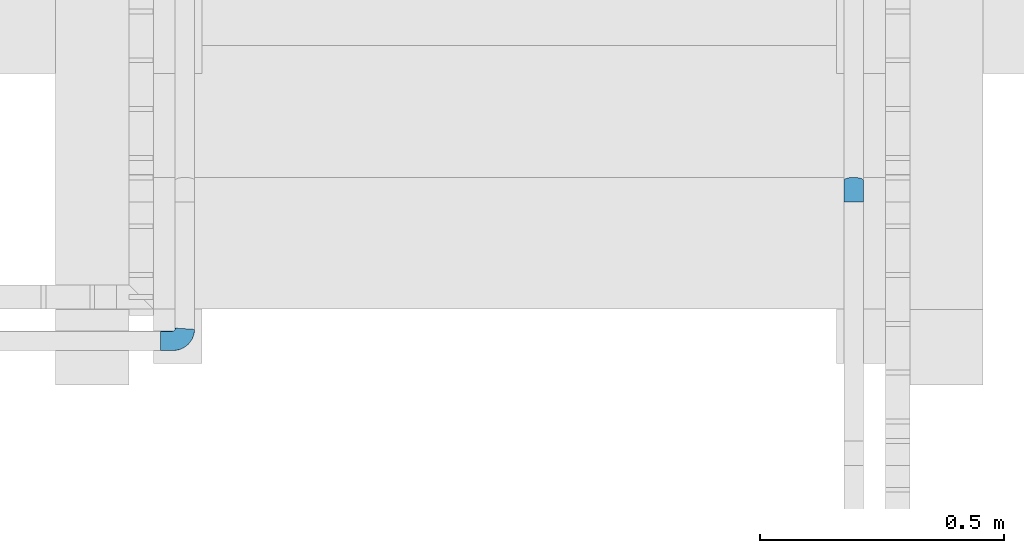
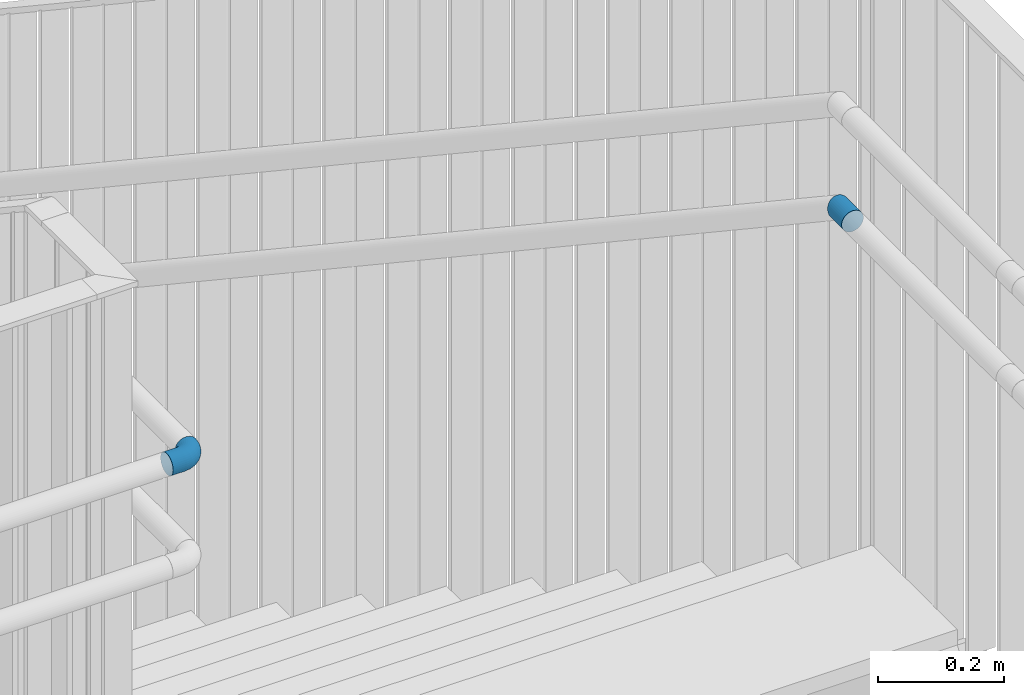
# One storey, part 86 of 418: 2 members, 2 elements without a shape of their own.
"""IFC2X3 building model written with IfcOpenShell, lengths in millimetres."""

from ifc_helpers import new_model, entity, si_unit, converted_unit, derived_unit, money_unit, direction, frame, origin_with_axes, place, context, subcontext, project, spatial, faceted_brep, material, type_object, element, aggregate, save


model = new_model("IFC2X3")

# Units and contexts
model_context = context("Model", 3, precision=0.01, world=origin_with_axes(), true_north=direction((0.0, 1.0)))
body_context = subcontext(model_context, "Body", "Model", "MODEL_VIEW")
ifc_project = project(units=[si_unit("LENGTHUNIT", "METRE", prefix="MILLI"), si_unit("AREAUNIT", "SQUARE_METRE"), si_unit("VOLUMEUNIT", "CUBIC_METRE"), converted_unit("PLANEANGLEUNIT", "DEGREE", entity("IfcPlaneAngleMeasure", 0.0174532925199), si_unit("PLANEANGLEUNIT", "RADIAN"), dimensions=[0, 0, 0, 0, 0, 0, 0]), si_unit("SOLIDANGLEUNIT", "STERADIAN"), money_unit("EUR"), converted_unit("TIMEUNIT", "Year", entity("IfcTimeMeasure", 31556926.0), si_unit("TIMEUNIT", "SECOND"), dimensions=[0, 0, 1, 0, 0, 0, 0]), si_unit("MASSUNIT", "GRAM", prefix="KILO"), si_unit("THERMODYNAMICTEMPERATUREUNIT", "DEGREE_CELSIUS"), si_unit("LUMINOUSINTENSITYUNIT", "LUMEN"), si_unit("ENERGYUNIT", "JOULE", prefix="MEGA"), derived_unit("THERMALCONDUCTANCEUNIT", [(si_unit("POWERUNIT", "WATT"), 1), (si_unit("LENGTHUNIT", "METRE"), -1), (si_unit("THERMODYNAMICTEMPERATUREUNIT", "KELVIN"), -1)]), derived_unit("SPECIFICHEATCAPACITYUNIT", [(si_unit("ENERGYUNIT", "JOULE"), 1), (si_unit("MASSUNIT", "GRAM", prefix="KILO"), -1), (si_unit("THERMODYNAMICTEMPERATUREUNIT", "KELVIN"), -1)]), derived_unit("MASSDENSITYUNIT", [(si_unit("MASSUNIT", "GRAM", prefix="KILO"), 1), (si_unit("VOLUMEUNIT", "CUBIC_METRE"), -1)])], contexts=[model_context])

# Site, building, storey
site_placement = place(None, origin_with_axes())
site = spatial("IfcSite", under=ifc_project, at=site_placement, Name="Paldiski mnt 245/1, Tallinn, Harjumaa", CompositionType="COMPLEX")
building_placement = place(site_placement, origin_with_axes())
building = spatial("IfcBuilding", under=site, at=building_placement, Name="RKAS Hoone üldnimetus (kasutust iseloomustav) -> IFC Project Manager -> SOLIBRI", CompositionType="ELEMENT")
storey_placement = place(building_placement, origin_with_axes())
storey = spatial("IfcBuildingStorey", under=building, at=storey_placement, Name="Esimene korrus", CompositionType="ELEMENT", Elevation=0.0)

# Railing, member
railing_type = type_object("IfcRailingType", Name="Railing Type", PredefinedType="NOTDEFINED")
railing_1_placement = place(storey_placement, frame((-15438.0000282, 781.88210964, -670.434782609), z_axis=(0.0, 0.0, 1.0), x_axis=(-0.773149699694, -0.634223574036, 0.0)))
railing_1 = element("IfcRailing", 1, at=railing_1_placement, inside=storey, type_object=railing_type, Name="Trepipiire", PredefinedType="NOTDEFINED")
ifc_material = material(Name="ET-07_Teras - Roostevaba")
member_type = type_object("IfcMemberType", Name="IfcMember", PredefinedType="USERDEFINED")
member_1_placement = place(railing_1_placement, frame((0.0, 0.0, 0.0), z_axis=(0.0, 0.0, 1.0), x_axis=(-0.773149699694, 0.634223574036, 0.0)))
member_1 = element("IfcMember", 2, at=member_1_placement, type_object=member_type, material=ifc_material, ObjectType="Rail", context=body_context, shape_type="Brep", body=[
    faceted_brep([(14.9999999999, -5214.69615506, 4833.90774616), (14.9999999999, -5215.0, 4830.43478261), (41.3108692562, -5215.0, 4830.43478261), (41.2909542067, -5214.69615506, 4833.90774616), (14.9999999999, -5214.69615506, 4826.96181906), (14.9999999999, -5213.79385242, 4837.27518548), (14.9999999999, -5212.32050808, 4840.43478261), (14.9999999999, -5210.32088886, 4843.2905348), (14.9999999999, -5207.85575219, 4845.75567147), (14.9999999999, -5205.0, 4847.75529068), (14.9999999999, -5201.84040287, 4849.22863502), (14.9999999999, -5198.47296355, 4850.13093767), (14.9999999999, -5195.0, 4850.43478261), (14.9999999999, -5191.52703645, 4850.13093767), (14.9999999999, -5188.15959713, 4849.22863502), (14.9999999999, -5185.0, 4847.75529068), (14.9999999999, -5182.14424781, 4845.75567147), (14.9999999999, -5179.67911114, 4843.2905348), (14.9999999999, -5177.67949192, 4840.43478261), (14.9999999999, -5176.20614758, 4837.27518548), (14.9999999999, -5175.30384494, 4833.90774616), (14.9999999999, -5175.0, 4830.43478261), (14.9999999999, -5175.30384494, 4826.96181906), (14.9999999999, -5176.20614758, 4823.59437974), (14.9999999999, -5177.67949192, 4820.43478261), (14.9999999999, -5179.67911114, 4817.57903041), (14.9999999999, -5182.14424781, 4815.11389375), (14.9999999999, -5185.0, 4813.11427453), (14.9999999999, -5188.15959713, 4811.64093019), (14.9999999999, -5191.52703645, 4810.73862755), (14.9999999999, -5195.0, 4810.43478261), (14.9999999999, -5198.47296355, 4810.73862755), (14.9999999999, -5201.84040287, 4811.64093019), (14.9999999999, -5205.0, 4813.11427453), (14.9999999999, -5207.85575219, 4815.11389375), (14.9999999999, -5210.32088886, 4817.57903041), (14.9999999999, -5212.32050808, 4820.43478261), (14.9999999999, -5213.79385242, 4823.59437974), (41.2909542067, -5214.69615506, 4826.96181906), (51.6122043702, -5213.3373367, 4833.90774616), (51.6915238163, -5213.6333609, 4830.43478261), (41.2318141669, -5213.79385242, 4837.27518548), (41.1352460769, -5212.32050808, 4840.43478261), (41.0041841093, -5210.32088886, 4843.2905348), (40.8426105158, -5207.85575219, 4845.75567147), (40.655434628, -5205.0, 4847.75529068), (40.4483436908, -5201.84040287, 4849.22863502), (40.2276300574, -5198.47296355, 4850.13093767), (39.9999999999, -5195.0, 4850.43478261), (39.7723699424, -5191.52703645, 4850.13093767), (39.551656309, -5188.15959713, 4849.22863502), (39.3445653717, -5185.0, 4847.75529068), (39.157389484, -5182.14424781, 4845.75567147), (38.9958158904, -5179.67911114, 4843.2905348), (38.8647539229, -5177.67949192, 4840.43478261), (38.7681858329, -5176.20614758, 4837.27518548), (38.7090457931, -5175.30384494, 4833.90774616), (38.6891307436, -5175.0, 4830.43478261), (38.7090457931, -5175.30384494, 4826.96181906), (38.7681858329, -5176.20614758, 4823.59437974), (38.8647539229, -5177.67949192, 4820.43478261), (38.9958158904, -5179.67911114, 4817.57903041), (39.157389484, -5182.14424781, 4815.11389375), (39.3445653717, -5185.0, 4813.11427453), (39.551656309, -5188.15959713, 4811.64093019), (39.7723699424, -5191.52703645, 4810.73862755), (39.9999999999, -5195.0, 4810.43478261), (40.2276300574, -5198.47296355, 4810.73862755), (40.4483436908, -5201.84040287, 4811.64093019), (40.655434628, -5205.0, 4813.11427453), (40.8426105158, -5207.85575219, 4815.11389375), (41.0041841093, -5210.32088886, 4817.57903041), (41.1352460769, -5212.32050808, 4820.43478261), (41.2318141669, -5213.79385242, 4823.59437974), (51.6122043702, -5213.3373367, 4826.96181906), (51.3766561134, -5212.45825864, 4837.27518548), (62.4330562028, -5208.85519311, 4833.90774616), (62.5862896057, -5209.12060115, 4830.43478261), (50.9920360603, -5211.02283706, 4840.43478261), (50.4700306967, -5209.07468652, 4843.2905348), (49.8265008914, -5206.67300059, 4845.75567147), (49.0809999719, -5203.89075328, 4847.75529068), (48.2561796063, -5200.81248177, 4849.22863502), (47.3771015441, -5197.53171778, 4850.13093767), (46.4704761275, -5194.14814566, 4850.43478261), (45.5638507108, -5190.76457354, 4850.13093767), (44.6847726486, -5187.48380955, 4849.22863502), (43.8599522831, -5184.40553804, 4847.75529068), (43.1144513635, -5181.62329073, 4845.75567147), (42.4709215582, -5179.2216048, 4843.2905348), (41.9489161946, -5177.27345426, 4840.43478261), (41.5642961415, -5175.83803268, 4837.27518548), (41.3287478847, -5174.95895462, 4833.90774616), (41.2494284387, -5174.66293041, 4830.43478261), (41.3287478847, -5174.95895462, 4826.96181906), (41.5642961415, -5175.83803268, 4823.59437974), (41.9489161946, -5177.27345426, 4820.43478261), (42.4709215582, -5179.2216048, 4817.57903041), (43.1144513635, -5181.62329073, 4815.11389375), (43.8599522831, -5184.40553804, 4813.11427453), (44.6847726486, -5187.48380955, 4811.64093019), (45.5638507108, -5190.76457354, 4810.73862755), (46.4704761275, -5194.14814566, 4810.43478261), (47.3771015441, -5197.53171778, 4810.73862755), (48.2561796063, -5200.81248177, 4811.64093019), (49.0809999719, -5203.89075328, 4813.11427453), (49.8265008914, -5206.67300059, 4815.11389375), (50.4700306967, -5209.07468652, 4817.57903041), (50.9920360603, -5211.02283706, 4820.43478261), (51.3766561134, -5212.45825864, 4823.59437974), (62.4330562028, -5208.85519311, 4826.96181906), (61.9780119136, -5208.06703328, 4837.27518548), (71.7251323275, -5201.72513233, 4833.90774616), (71.9418370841, -5201.94183708, 4830.43478261), (61.2349830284, -5206.7800695, 4840.43478261), (60.2265461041, -5205.03340551, 4843.2905348), (58.9833419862, -5202.88011282, 4845.75567147), (57.5431448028, -5200.38561812, 4847.75529068), (55.9497142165, -5197.62571539, 4849.22863502), (54.2514658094, -5194.68426286, 4850.13093767), (52.4999999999, -5191.65063509, 4850.43478261), (50.7485341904, -5188.61700732, 4850.13093767), (49.0502857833, -5185.6755548, 4849.22863502), (47.456855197, -5182.91565207, 4847.75529068), (46.0166580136, -5180.42115737, 4845.75567147), (44.7734538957, -5178.26786468, 4843.2905348), (43.7650169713, -5176.52120069, 4840.43478261), (43.0219880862, -5175.23423691, 4837.27518548), (42.566943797, -5174.44607708, 4833.90774616), (42.4137103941, -5174.18066904, 4830.43478261), (42.566943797, -5174.44607708, 4826.96181906), (43.0219880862, -5175.23423691, 4823.59437974), (43.7650169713, -5176.52120069, 4820.43478261), (44.7734538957, -5178.26786468, 4817.57903041), (46.0166580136, -5180.42115737, 4815.11389375), (47.456855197, -5182.91565207, 4813.11427453), (49.0502857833, -5185.6755548, 4811.64093019), (50.7485341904, -5188.61700732, 4810.73862755), (52.4999999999, -5191.65063509, 4810.43478261), (54.2514658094, -5194.68426286, 4810.73862755), (55.9497142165, -5197.62571539, 4811.64093019), (57.5431448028, -5200.38561812, 4813.11427453), (58.9833419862, -5202.88011282, 4815.11389375), (60.2265461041, -5205.03340551, 4817.57903041), (61.2349830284, -5206.7800695, 4820.43478261), (61.9780119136, -5208.06703328, 4823.59437974), (71.7251323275, -5201.72513233, 4826.96181906), (71.0816025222, -5201.08160252, 4837.27518548), (78.8551931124, -5192.4330562, 4833.90774616), (79.1206011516, -5192.58628961, 4830.43478261), (70.0308009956, -5200.030801, 4840.43478261), (68.6046558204, -5198.60465582, 4843.2905348), (66.8464996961, -5196.8464997, 4845.75567147), (64.8097533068, -5194.80975331, 4847.75529068), (62.556302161, -5192.55630216, 4849.22863502), (60.1546162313, -5190.15461623, 4850.13093767), (57.6776695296, -5187.67766953, 4850.43478261), (55.2007228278, -5185.20072283, 4850.13093767), (52.7990368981, -5182.7990369, 4849.22863502), (50.5455857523, -5180.54558575, 4847.75529068), (48.508839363, -5178.50883936, 4845.75567147), (46.7506832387, -5176.75068324, 4843.2905348), (45.3245380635, -5175.32453806, 4840.43478261), (44.2737365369, -5174.27373654, 4837.27518548), (43.6302067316, -5173.63020673, 4833.90774616), (43.413501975, -5173.41350198, 4830.43478261), (43.6302067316, -5173.63020673, 4826.96181906), (44.2737365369, -5174.27373654, 4823.59437974), (45.3245380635, -5175.32453806, 4820.43478261), (46.7506832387, -5176.75068324, 4817.57903041), (48.508839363, -5178.50883936, 4815.11389375), (50.5455857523, -5180.54558575, 4813.11427453), (52.7990368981, -5182.7990369, 4811.64093019), (55.2007228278, -5185.20072283, 4810.73862755), (57.6776695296, -5187.67766953, 4810.43478261), (60.1546162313, -5190.15461623, 4810.73862755), (62.556302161, -5192.55630216, 4811.64093019), (64.8097533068, -5194.80975331, 4813.11427453), (66.8464996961, -5196.8464997, 4815.11389375), (68.6046558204, -5198.60465582, 4817.57903041), (70.0308009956, -5200.030801, 4820.43478261), (71.0816025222, -5201.08160252, 4823.59437974), (78.8551931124, -5192.4330562, 4826.96181906), (78.0670332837, -5191.97801191, 4837.27518548), (83.3373366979, -5181.61220437, 4833.90774616), (83.6333609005, -5181.69152382, 4830.43478261), (76.7800695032, -5191.23498303, 4840.43478261), (75.033405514, -5190.2265461, 4843.2905348), (72.8801128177, -5188.98334199, 4845.75567147), (70.3856181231, -5187.5431448, 4847.75529068), (67.6257153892, -5185.94971422, 4849.22863502), (64.6842628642, -5184.25146581, 4850.13093767), (61.6506350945, -5182.5, 4850.43478261), (58.6170073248, -5180.74853419, 4850.13093767), (55.6755547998, -5179.05028578, 4849.22863502), (52.915652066, -5177.4568552, 4847.75529068), (50.4211573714, -5176.01665801, 4845.75567147), (48.267864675, -5174.7734539, 4843.2905348), (46.5212006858, -5173.76501697, 4840.43478261), (45.2342369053, -5173.02198809, 4837.27518548), (44.4460770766, -5172.5669438, 4833.90774616), (44.1806690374, -5172.41371039, 4830.43478261), (44.4460770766, -5172.5669438, 4826.96181906), (45.2342369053, -5173.02198809, 4823.59437974), (46.5212006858, -5173.76501697, 4820.43478261), (48.267864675, -5174.7734539, 4817.57903041), (50.4211573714, -5176.01665801, 4815.11389375), (52.915652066, -5177.4568552, 4813.11427453), (55.6755547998, -5179.05028578, 4811.64093019), (58.6170073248, -5180.74853419, 4810.73862755), (61.6506350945, -5182.5, 4810.43478261), (64.6842628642, -5184.25146581, 4810.73862755), (67.6257153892, -5185.94971422, 4811.64093019), (70.3856181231, -5187.5431448, 4813.11427453), (72.8801128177, -5188.98334199, 4815.11389375), (75.033405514, -5190.2265461, 4817.57903041), (76.7800695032, -5191.23498303, 4820.43478261), (78.0670332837, -5191.97801191, 4823.59437974), (83.3373366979, -5181.61220437, 4826.96181906), (82.4582586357, -5181.37665611, 4837.27518548), (84.6961550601, -5171.29095421, 4833.90774616), (84.9999999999, -5171.31086926, 4830.43478261), (81.0228370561, -5180.99203606, 4840.43478261), (79.0746865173, -5180.4700307, 4843.2905348), (76.6730005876, -5179.82650089, 4845.75567147), (73.8907532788, -5179.08099997, 4847.75529068), (70.8124817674, -5178.25617961, 4849.22863502), (67.5317177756, -5177.37710154, 4850.13093767), (64.1481456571, -5176.47047613, 4850.43478261), (60.7645735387, -5175.56385071, 4850.13093767), (57.4838095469, -5174.68477265, 4849.22863502), (54.4055380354, -5173.85995228, 4847.75529068), (51.6232907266, -5173.11445136, 4845.75567147), (49.221604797, -5172.47092156, 4843.2905348), (47.2734542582, -5171.94891619, 4840.43478261), (45.8380326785, -5171.56429614, 4837.27518548), (44.9589546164, -5171.32874788, 4833.90774616), (44.6629304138, -5171.24942844, 4830.43478261), (44.9589546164, -5171.32874788, 4826.96181906), (45.8380326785, -5171.56429614, 4823.59437974), (47.2734542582, -5171.94891619, 4820.43478261), (49.221604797, -5172.47092156, 4817.57903041), (51.6232907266, -5173.11445136, 4815.11389375), (54.4055380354, -5173.85995228, 4813.11427453), (57.4838095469, -5174.68477265, 4811.64093019), (60.7645735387, -5175.56385071, 4810.73862755), (64.1481456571, -5176.47047613, 4810.43478261), (67.5317177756, -5177.37710154, 4810.73862755), (70.8124817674, -5178.25617961, 4811.64093019), (73.8907532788, -5179.08099997, 4813.11427453), (76.6730005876, -5179.82650089, 4815.11389375), (79.0746865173, -5180.4700307, 4817.57903041), (81.0228370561, -5180.99203606, 4820.43478261), (82.4582586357, -5181.37665611, 4823.59437974), (84.6961550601, -5171.29095421, 4826.96181906), (83.7938524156, -5171.23181417, 4837.27518548), (82.3205080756, -5171.13524608, 4840.43478261), (83.7938524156, -5171.23181417, 4823.59437974), (82.3205080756, -5171.13524608, 4820.43478261), (80.3208888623, -5171.00418411, 4817.57903041), (77.8557521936, -5170.84261052, 4815.11389375), (74.9999999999, -5170.65543463, 4813.11427453), (71.8404028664, -5170.44834369, 4811.64093019), (68.4729635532, -5170.22763006, 4810.73862755), (64.9999999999, -5170.0, 4810.43478261), (61.5270364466, -5169.77236994, 4810.73862755), (58.1595971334, -5169.55165631, 4811.64093019), (54.9999999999, -5169.34456537, 4813.11427453), (52.1442478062, -5169.15738948, 4815.11389375), (49.6791111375, -5168.99581589, 4817.57903041), (47.6794919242, -5168.86475392, 4820.43478261), (46.2061475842, -5168.76818583, 4823.59437974), (45.3038449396, -5168.70904579, 4826.96181906), (44.9999999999, -5168.68913074, 4830.43478261), (45.3038449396, -5168.70904579, 4833.90774616), (46.2061475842, -5168.76818583, 4837.27518548), (47.6794919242, -5168.86475392, 4840.43478261), (49.6791111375, -5168.99581589, 4843.2905348), (52.1442478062, -5169.15738948, 4845.75567147), (54.9999999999, -5169.34456537, 4847.75529068), (58.1595971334, -5169.55165631, 4849.22863502), (61.5270364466, -5169.77236994, 4850.13093767), (64.9999999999, -5170.0, 4850.43478261), (68.4729635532, -5170.22763006, 4850.13093767), (71.8404028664, -5170.44834369, 4849.22863502), (74.9999999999, -5170.65543463, 4847.75529068), (77.8557521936, -5170.84261052, 4845.75567147), (80.3208888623, -5171.00418411, 4843.2905348)], [[[0, 1, 2, 3]], [[4, 1, 0, 5, 6, 7, 8, 9, 10, 11, 12, 13, 14, 15, 16, 17, 18, 19, 20, 21, 22, 23, 24, 25, 26, 27, 28, 29, 30, 31, 32, 33, 34, 35, 36, 37]], [[1, 4, 38, 2]], [[39, 3, 2, 40]], [[5, 0, 3, 41]], [[6, 5, 41, 42]], [[7, 6, 42, 43]], [[8, 7, 43, 44]], [[9, 8, 44, 45]], [[10, 9, 45, 46]], [[11, 10, 46, 47]], [[12, 11, 47, 48]], [[13, 12, 48, 49]], [[14, 13, 49, 50]], [[15, 14, 50, 51]], [[16, 15, 51, 52]], [[17, 16, 52, 53]], [[18, 17, 53, 54]], [[19, 18, 54, 55]], [[20, 19, 55, 56]], [[21, 20, 56, 57]], [[22, 21, 57, 58]], [[23, 22, 58, 59]], [[24, 23, 59, 60]], [[25, 24, 60, 61]], [[26, 25, 61, 62]], [[27, 26, 62, 63]], [[28, 27, 63, 64]], [[29, 28, 64, 65]], [[30, 29, 65, 66]], [[31, 30, 66, 67]], [[32, 31, 67, 68]], [[33, 32, 68, 69]], [[34, 33, 69, 70]], [[35, 34, 70, 71]], [[36, 35, 71, 72]], [[37, 36, 72, 73]], [[4, 37, 73, 38]], [[40, 2, 38, 74]], [[75, 41, 3, 39]], [[76, 39, 40, 77]], [[78, 42, 41, 75]], [[79, 43, 42, 78]], [[80, 44, 43, 79]], [[81, 45, 44, 80]], [[82, 46, 45, 81]], [[83, 47, 46, 82]], [[84, 48, 47, 83]], [[85, 49, 48, 84]], [[86, 50, 49, 85]], [[87, 51, 50, 86]], [[88, 52, 51, 87]], [[89, 53, 52, 88]], [[90, 54, 53, 89]], [[91, 55, 54, 90]], [[92, 56, 55, 91]], [[93, 57, 56, 92]], [[94, 58, 57, 93]], [[95, 59, 58, 94]], [[96, 60, 59, 95]], [[97, 61, 60, 96]], [[98, 62, 61, 97]], [[99, 63, 62, 98]], [[100, 64, 63, 99]], [[101, 65, 64, 100]], [[102, 66, 65, 101]], [[103, 67, 66, 102]], [[104, 68, 67, 103]], [[105, 69, 68, 104]], [[106, 70, 69, 105]], [[107, 71, 70, 106]], [[108, 72, 71, 107]], [[109, 73, 72, 108]], [[74, 38, 73, 109]], [[77, 40, 74, 110]], [[111, 75, 39, 76]], [[112, 76, 77, 113]], [[114, 78, 75, 111]], [[115, 79, 78, 114]], [[116, 80, 79, 115]], [[117, 81, 80, 116]], [[118, 82, 81, 117]], [[119, 83, 82, 118]], [[120, 84, 83, 119]], [[121, 85, 84, 120]], [[122, 86, 85, 121]], [[123, 87, 86, 122]], [[124, 88, 87, 123]], [[125, 89, 88, 124]], [[126, 90, 89, 125]], [[127, 91, 90, 126]], [[128, 92, 91, 127]], [[129, 93, 92, 128]], [[130, 94, 93, 129]], [[131, 95, 94, 130]], [[132, 96, 95, 131]], [[133, 97, 96, 132]], [[134, 98, 97, 133]], [[135, 99, 98, 134]], [[136, 100, 99, 135]], [[137, 101, 100, 136]], [[138, 102, 101, 137]], [[139, 103, 102, 138]], [[140, 104, 103, 139]], [[141, 105, 104, 140]], [[142, 106, 105, 141]], [[143, 107, 106, 142]], [[144, 108, 107, 143]], [[145, 109, 108, 144]], [[110, 74, 109, 145]], [[113, 77, 110, 146]], [[147, 111, 76, 112]], [[148, 112, 113, 149]], [[150, 114, 111, 147]], [[151, 115, 114, 150]], [[152, 116, 115, 151]], [[153, 117, 116, 152]], [[154, 118, 117, 153]], [[155, 119, 118, 154]], [[156, 120, 119, 155]], [[157, 121, 120, 156]], [[158, 122, 121, 157]], [[159, 123, 122, 158]], [[160, 124, 123, 159]], [[161, 125, 124, 160]], [[162, 126, 125, 161]], [[163, 127, 126, 162]], [[164, 128, 127, 163]], [[165, 129, 128, 164]], [[166, 130, 129, 165]], [[167, 131, 130, 166]], [[168, 132, 131, 167]], [[169, 133, 132, 168]], [[170, 134, 133, 169]], [[171, 135, 134, 170]], [[172, 136, 135, 171]], [[173, 137, 136, 172]], [[174, 138, 137, 173]], [[175, 139, 138, 174]], [[176, 140, 139, 175]], [[177, 141, 140, 176]], [[178, 142, 141, 177]], [[179, 143, 142, 178]], [[180, 144, 143, 179]], [[181, 145, 144, 180]], [[146, 110, 145, 181]], [[149, 113, 146, 182]], [[183, 147, 112, 148]], [[184, 148, 149, 185]], [[186, 150, 147, 183]], [[187, 151, 150, 186]], [[188, 152, 151, 187]], [[189, 153, 152, 188]], [[190, 154, 153, 189]], [[191, 155, 154, 190]], [[192, 156, 155, 191]], [[193, 157, 156, 192]], [[194, 158, 157, 193]], [[195, 159, 158, 194]], [[196, 160, 159, 195]], [[197, 161, 160, 196]], [[198, 162, 161, 197]], [[199, 163, 162, 198]], [[200, 164, 163, 199]], [[201, 165, 164, 200]], [[202, 166, 165, 201]], [[203, 167, 166, 202]], [[204, 168, 167, 203]], [[205, 169, 168, 204]], [[206, 170, 169, 205]], [[207, 171, 170, 206]], [[208, 172, 171, 207]], [[209, 173, 172, 208]], [[210, 174, 173, 209]], [[211, 175, 174, 210]], [[212, 176, 175, 211]], [[213, 177, 176, 212]], [[214, 178, 177, 213]], [[215, 179, 178, 214]], [[216, 180, 179, 215]], [[217, 181, 180, 216]], [[182, 146, 181, 217]], [[185, 149, 182, 218]], [[219, 183, 148, 184]], [[220, 184, 185, 221]], [[222, 186, 183, 219]], [[223, 187, 186, 222]], [[224, 188, 187, 223]], [[225, 189, 188, 224]], [[226, 190, 189, 225]], [[227, 191, 190, 226]], [[228, 192, 191, 227]], [[229, 193, 192, 228]], [[230, 194, 193, 229]], [[231, 195, 194, 230]], [[232, 196, 195, 231]], [[233, 197, 196, 232]], [[234, 198, 197, 233]], [[235, 199, 198, 234]], [[236, 200, 199, 235]], [[237, 201, 200, 236]], [[238, 202, 201, 237]], [[239, 203, 202, 238]], [[240, 204, 203, 239]], [[241, 205, 204, 240]], [[242, 206, 205, 241]], [[243, 207, 206, 242]], [[244, 208, 207, 243]], [[245, 209, 208, 244]], [[246, 210, 209, 245]], [[247, 211, 210, 246]], [[248, 212, 211, 247]], [[249, 213, 212, 248]], [[250, 214, 213, 249]], [[251, 215, 214, 250]], [[252, 216, 215, 251]], [[253, 217, 216, 252]], [[218, 182, 217, 253]], [[221, 185, 218, 254]], [[255, 219, 184, 220]], [[256, 255, 220, 221, 254, 257, 258, 259, 260, 261, 262, 263, 264, 265, 266, 267, 268, 269, 270, 271, 272, 273, 274, 275, 276, 277, 278, 279, 280, 281, 282, 283, 284, 285, 286, 287]], [[256, 222, 219, 255]], [[287, 223, 222, 256]], [[286, 224, 223, 287]], [[285, 225, 224, 286]], [[284, 226, 225, 285]], [[283, 227, 226, 284]], [[282, 228, 227, 283]], [[281, 229, 228, 282]], [[280, 230, 229, 281]], [[279, 231, 230, 280]], [[278, 232, 231, 279]], [[277, 233, 232, 278]], [[276, 234, 233, 277]], [[275, 235, 234, 276]], [[274, 236, 235, 275]], [[273, 237, 236, 274]], [[272, 238, 237, 273]], [[271, 239, 238, 272]], [[270, 240, 239, 271]], [[269, 241, 240, 270]], [[268, 242, 241, 269]], [[267, 243, 242, 268]], [[266, 244, 243, 267]], [[265, 245, 244, 266]], [[264, 246, 245, 265]], [[263, 247, 246, 264]], [[262, 248, 247, 263]], [[261, 249, 248, 262]], [[260, 250, 249, 261]], [[259, 251, 250, 260]], [[258, 252, 251, 259]], [[257, 253, 252, 258]], [[254, 218, 253, 257]]]),
])
aggregate(railing_1, [member_1])

railing_2_placement = place(storey_placement, frame((-13938.0000282, 1623.82640275, -670.434782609), z_axis=(0.0, 0.0, 1.0), x_axis=(0.773149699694, 0.634223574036, 0.0)))
railing_2 = element("IfcRailing", 3, at=railing_2_placement, inside=storey, type_object=railing_type, Name="Trepipiire", PredefinedType="NOTDEFINED")
member_2_placement = place(railing_2_placement, frame((0.0, 0.0, 0.0), z_axis=(0.0, 0.0, 1.0), x_axis=(0.773149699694, -0.634223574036, 0.0)))
member_2 = element("IfcMember", 4, at=member_2_placement, type_object=member_type, material=ifc_material, ObjectType="Rail", context=body_context, shape_type="Brep", body=[
    faceted_brep([(-84.6961550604, -5751.94429311, 4626.96181906), (-85.0000000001, -5751.94429311, 4630.43478261), (-85.0000000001, -5707.98762861, 4630.43478261), (-84.6961550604, -5709.0370428, 4626.96181906), (-84.6961550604, -5751.94429311, 4633.90774616), (-83.7938524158, -5751.94429311, 4623.59437974), (-82.3205080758, -5751.94429311, 4620.43478261), (-80.3208888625, -5751.94429311, 4617.57903041), (-77.8557521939, -5751.94429311, 4615.11389375), (-75.0000000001, -5751.94429311, 4613.11427453), (-71.8404028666, -5751.94429311, 4611.64093019), (-68.4729635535, -5751.94429311, 4610.73862755), (-65.0000000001, -5751.94429311, 4610.43478261), (-61.5270364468, -5751.94429311, 4610.73862755), (-58.1595971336, -5751.94429311, 4611.64093019), (-55.0000000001, -5751.94429311, 4613.11427453), (-52.1442478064, -5751.94429311, 4615.11389375), (-49.6791111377, -5751.94429311, 4617.57903041), (-47.6794919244, -5751.94429311, 4620.43478261), (-46.2061475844, -5751.94429311, 4623.59437974), (-45.3038449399, -5751.94429311, 4626.96181906), (-45.0000000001, -5751.94429311, 4630.43478261), (-45.3038449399, -5751.94429311, 4633.90774616), (-46.2061475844, -5751.94429311, 4637.27518548), (-47.6794919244, -5751.94429311, 4640.43478261), (-49.6791111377, -5751.94429311, 4643.2905348), (-52.1442478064, -5751.94429311, 4645.75567147), (-55.0000000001, -5751.94429311, 4647.75529068), (-58.1595971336, -5751.94429311, 4649.22863502), (-61.5270364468, -5751.94429311, 4650.13093767), (-65.0000000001, -5751.94429311, 4650.43478261), (-68.4729635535, -5751.94429311, 4650.13093767), (-71.8404028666, -5751.94429311, 4649.22863502), (-75.0000000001, -5751.94429311, 4647.75529068), (-77.8557521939, -5751.94429311, 4645.75567147), (-80.3208888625, -5751.94429311, 4643.2905348), (-82.3205080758, -5751.94429311, 4640.43478261), (-83.7938524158, -5751.94429311, 4637.27518548), (-84.6961550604, -5706.93821441, 4633.90774616), (-47.6794919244, -5704.96596086, 4640.43478261), (-46.2061475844, -5705.92068614, 4637.27518548), (-45.3038449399, -5706.93821441, 4633.90774616), (-45.0000000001, -5707.98762861, 4630.43478261), (-45.3038449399, -5709.0370428, 4626.96181906), (-46.2061475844, -5710.05457108, 4623.59437974), (-47.6794919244, -5711.00929636, 4620.43478261), (-49.6791111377, -5711.87220979, 4617.57903041), (-52.1442478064, -5712.61709218, 4615.11389375), (-55.0000000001, -5713.22131067, 4613.11427453), (-58.1595971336, -5713.66650638, 4611.64093019), (-61.5270364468, -5713.93915226, 4610.73862755), (-65.0000000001, -5714.0309641, 4610.43478261), (-68.4729635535, -5713.93915226, 4610.73862755), (-71.8404028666, -5713.66650638, 4611.64093019), (-75.0000000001, -5713.22131067, 4613.11427453), (-77.8557521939, -5712.61709218, 4615.11389375), (-80.3208888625, -5711.87220979, 4617.57903041), (-82.3205080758, -5711.00929636, 4620.43478261), (-83.7938524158, -5710.05457108, 4623.59437974), (-83.7938524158, -5705.92068614, 4637.27518548), (-82.3205080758, -5704.96596086, 4640.43478261), (-80.3208888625, -5704.10304743, 4643.2905348), (-77.8557521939, -5703.35816504, 4645.75567147), (-75.0000000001, -5702.75394655, 4647.75529068), (-71.8404028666, -5702.30875084, 4649.22863502), (-68.4729635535, -5702.03610496, 4650.13093767), (-65.0000000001, -5701.94429311, 4650.43478261), (-61.5270364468, -5702.03610496, 4650.13093767), (-58.1595971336, -5702.30875084, 4649.22863502), (-55.0000000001, -5702.75394655, 4647.75529068), (-52.1442478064, -5703.35816504, 4645.75567147), (-49.6791111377, -5704.10304743, 4643.2905348)], [[[0, 1, 2, 3]], [[4, 1, 0, 5, 6, 7, 8, 9, 10, 11, 12, 13, 14, 15, 16, 17, 18, 19, 20, 21, 22, 23, 24, 25, 26, 27, 28, 29, 30, 31, 32, 33, 34, 35, 36, 37]], [[1, 4, 38, 2]], [[39, 40, 41, 42, 43, 44, 45, 46, 47, 48, 49, 50, 51, 52, 53, 54, 55, 56, 57, 58, 3, 2, 38, 59, 60, 61, 62, 63, 64, 65, 66, 67, 68, 69, 70, 71]], [[5, 0, 3, 58]], [[6, 5, 58, 57]], [[7, 6, 57, 56]], [[8, 7, 56, 55]], [[9, 8, 55, 54]], [[10, 9, 54, 53]], [[11, 10, 53, 52]], [[12, 11, 52, 51]], [[13, 12, 51, 50]], [[14, 13, 50, 49]], [[15, 14, 49, 48]], [[16, 15, 48, 47]], [[17, 16, 47, 46]], [[18, 17, 46, 45]], [[19, 18, 45, 44]], [[20, 19, 44, 43]], [[21, 20, 43, 42]], [[22, 21, 42, 41]], [[23, 22, 41, 40]], [[24, 23, 40, 39]], [[25, 24, 39, 71]], [[26, 25, 71, 70]], [[27, 26, 70, 69]], [[28, 27, 69, 68]], [[29, 28, 68, 67]], [[30, 29, 67, 66]], [[31, 30, 66, 65]], [[32, 31, 65, 64]], [[33, 32, 64, 63]], [[34, 33, 63, 62]], [[35, 34, 62, 61]], [[36, 35, 61, 60]], [[37, 36, 60, 59]], [[4, 37, 59, 38]]]),
])
aggregate(railing_2, [member_2])

save(model, "model.ifc")
